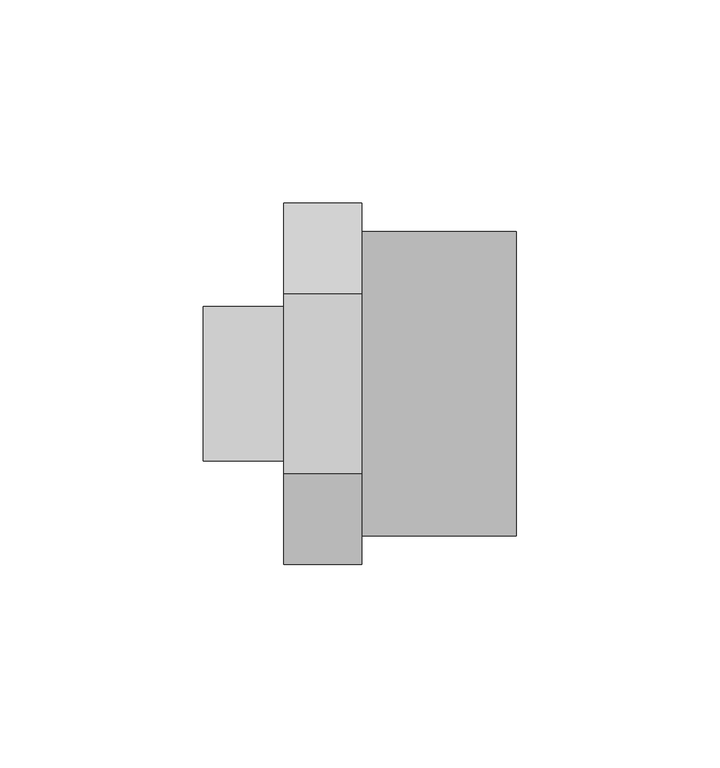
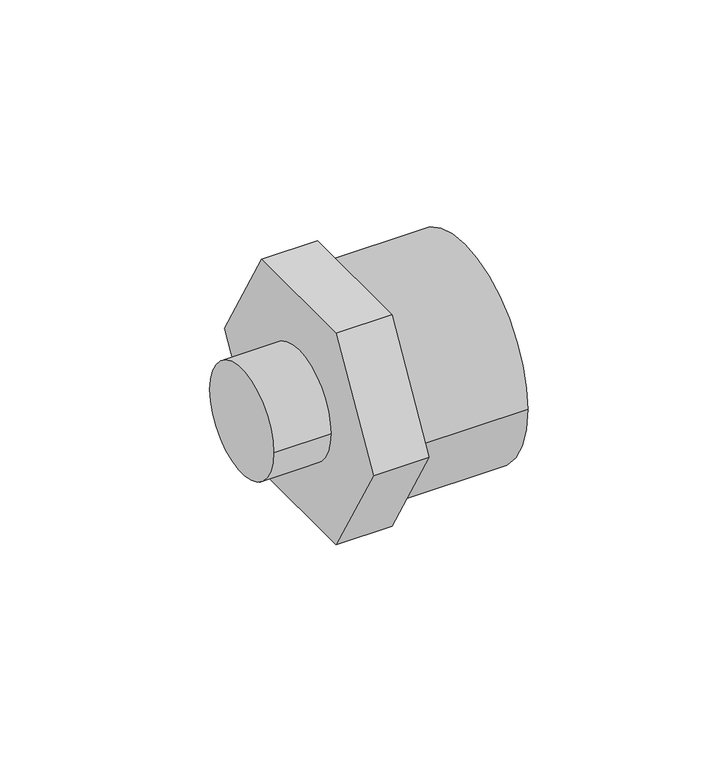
"""IFC4 building model written with IfcOpenShell, lengths in millimetres: pipe fitting geometry, 01101081 : Uniões múltiplas F/M/M."""

from ifc_helpers import new_model, si_unit, point, frame, origin, origin_2d, place, context, project, spatial, polyline, circle_curve, trimmed, segment, composite_curve, outline, extrude, source, transform, mapped, element, save


def pipe_fitting_1286e885(model_context):
    return source(origin(), model_context, "Body", "SweptSolid", [
        extrude(outline(composite_curve([segment(trimmed(circle_curve(origin_2d(), 19.05), [point((19.05, 0.0))], [point((-19.05, 0.0))], False, "CARTESIAN"), True, "CONTINUOUS"), segment(trimmed(circle_curve(origin_2d(), 19.05), [point((-19.05, 0.0))], [point((19.05, 0.0))], False, "CARTESIAN"), True, "CONTINUOUS")], self_intersect=False)), frame((0.0, 0.0, 0.0), z_axis=(1.0, 0.0, 0.0), x_axis=(0.0, 1.0, 0.0)), (0.0, 0.0, 1.0), 19.75),
        extrude(outline(polyline([(-22.2279854, 38.5), (22.2279854, 38.5), (44.4559707, 0.0), (22.2279854, -38.5), (-22.2279854, -38.5), (-44.4559707, 0.0), (-22.2279854, 38.5)])), frame((19.75, 0.0, 0.0), z_axis=(1.0, 0.0, 0.0), x_axis=(0.0, 1.0, 0.0)), (0.0, 0.0, 1.0), 19.25),
        extrude(outline(composite_curve([segment(trimmed(circle_curve(origin_2d(), 37.5), [point((-37.5, 0.0))], [point((37.5, 0.0))], False, "CARTESIAN"), True, "CONTINUOUS"), segment(trimmed(circle_curve(origin_2d(), 37.5), [point((37.5, 0.0))], [point((-37.5, 0.0))], False, "CARTESIAN"), True, "CONTINUOUS")], self_intersect=False)), frame((39.0, 0.0, 0.0), z_axis=(1.0, 0.0, 0.0), x_axis=(0.0, 1.0, 0.0)), (0.0, 0.0, 1.0), 38.0),
    ])


if __name__ == "__main__":
    model = new_model("IFC4")
    model_context = context("Model", 3, world=origin())
    ifc_project = project(units=[si_unit("LENGTHUNIT", "METRE", prefix="MILLI")], contexts=[model_context])
    site = spatial("IfcSite", under=ifc_project)
    building = spatial("IfcBuilding", under=site)
    placement = place(None, origin())
    pipe_fitting_shape = pipe_fitting_1286e885(model_context)
    element("IfcPipeFitting", 1, ObjectType="01101081 : Uniões múltiplas F/M/M", at=placement, inside=building, context=model_context, shape_type="MappedRepresentation", body=[
        mapped(pipe_fitting_shape, transform((0.0, 0.0, 0.0), x_axis=(1.0, 0.0, 0.0), y_axis=(0.0, 1.0, 0.0), z_axis=(0.0, 0.0, 1.0))),
    ])
    save(model, "model.ifc")
